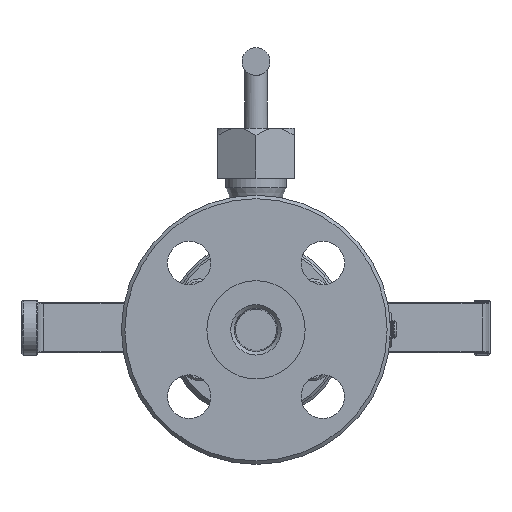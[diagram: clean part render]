
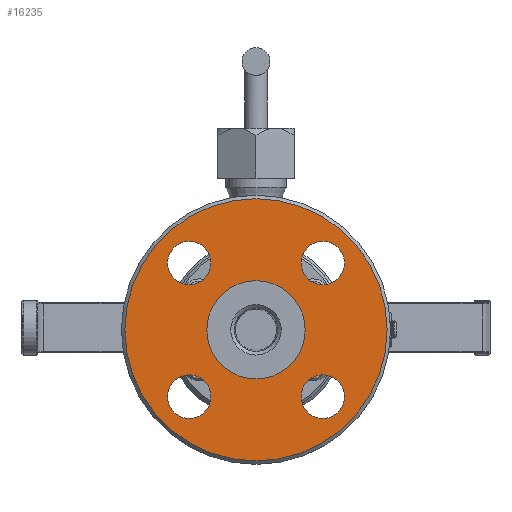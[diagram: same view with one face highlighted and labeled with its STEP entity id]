
A CAD part, left-side view. The second image highlights one B-rep face of the part: STEP entity #16235.
In plain terms, the highlighted planar face has unit normal (-1, 0, 0).
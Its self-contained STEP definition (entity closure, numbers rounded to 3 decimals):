
#3401=FACE_BOUND('',#4467,.T.);
#3402=FACE_BOUND('',#4468,.T.);
#3403=FACE_BOUND('',#4469,.T.);
#3404=FACE_BOUND('',#4470,.T.);
#3405=FACE_BOUND('',#4471,.T.);
#3518=FACE_OUTER_BOUND('',#4466,.T.);
#4466=EDGE_LOOP('',(#10814,#10815));
#4467=EDGE_LOOP('',(#10816));
#4468=EDGE_LOOP('',(#10817));
#4469=EDGE_LOOP('',(#10818));
#4470=EDGE_LOOP('',(#10819));
#4471=EDGE_LOOP('',(#10820,#10821));
#5516=CIRCLE('',#17251,9.5);
#5518=CIRCLE('',#17254,9.5);
#5520=CIRCLE('',#17257,9.5);
#5522=CIRCLE('',#17260,9.5);
#5548=CIRCLE('',#17297,57.25);
#5549=CIRCLE('',#17298,57.25);
#5550=CIRCLE('',#17300,21.45);
#5551=CIRCLE('',#17301,21.45);
#6435=VERTEX_POINT('',#23960);
#6437=VERTEX_POINT('',#23966);
#6439=VERTEX_POINT('',#23972);
#6441=VERTEX_POINT('',#23978);
#6464=VERTEX_POINT('',#24045);
#6465=VERTEX_POINT('',#24046);
#6466=VERTEX_POINT('',#24051);
#6467=VERTEX_POINT('',#24052);
#8138=EDGE_CURVE('',#6435,#6435,#5516,.T.);
#8141=EDGE_CURVE('',#6437,#6437,#5518,.T.);
#8144=EDGE_CURVE('',#6439,#6439,#5520,.T.);
#8147=EDGE_CURVE('',#6441,#6441,#5522,.T.);
#8179=EDGE_CURVE('',#6464,#6465,#5548,.T.);
#8181=EDGE_CURVE('',#6465,#6464,#5549,.T.);
#8182=EDGE_CURVE('',#6466,#6467,#5550,.T.);
#8183=EDGE_CURVE('',#6467,#6466,#5551,.T.);
#10814=ORIENTED_EDGE('',*,*,#8179,.F.);
#10815=ORIENTED_EDGE('',*,*,#8181,.F.);
#10816=ORIENTED_EDGE('',*,*,#8138,.F.);
#10817=ORIENTED_EDGE('',*,*,#8141,.F.);
#10818=ORIENTED_EDGE('',*,*,#8144,.F.);
#10819=ORIENTED_EDGE('',*,*,#8147,.F.);
#10820=ORIENTED_EDGE('',*,*,#8182,.T.);
#10821=ORIENTED_EDGE('',*,*,#8183,.T.);
#15853=PLANE('',#17299);
#16235=ADVANCED_FACE('',(#3518,#3401,#3402,#3403,#3404,#3405),#15853,.F.);
#17251=AXIS2_PLACEMENT_3D('',#23962,#19142,#19143);
#17254=AXIS2_PLACEMENT_3D('',#23968,#19149,#19150);
#17257=AXIS2_PLACEMENT_3D('',#23974,#19156,#19157);
#17260=AXIS2_PLACEMENT_3D('',#23980,#19163,#19164);
#17297=AXIS2_PLACEMENT_3D('',#24047,#19243,#19244);
#17298=AXIS2_PLACEMENT_3D('',#24049,#19246,#19247);
#17299=AXIS2_PLACEMENT_3D('',#24050,#19248,#19249);
#17300=AXIS2_PLACEMENT_3D('',#24053,#19250,#19251);
#17301=AXIS2_PLACEMENT_3D('',#24054,#19252,#19253);
#19142=DIRECTION('center_axis',(-1.,0.,0.));
#19143=DIRECTION('ref_axis',(0.,-1.,0.));
#19149=DIRECTION('center_axis',(-1.,0.,0.));
#19150=DIRECTION('ref_axis',(0.,-1.,0.));
#19156=DIRECTION('center_axis',(-1.,0.,0.));
#19157=DIRECTION('ref_axis',(0.,-1.,0.));
#19163=DIRECTION('center_axis',(-1.,0.,0.));
#19164=DIRECTION('ref_axis',(0.,-1.,0.));
#19243=DIRECTION('center_axis',(1.,0.,0.));
#19244=DIRECTION('ref_axis',(0.,0.,1.));
#19246=DIRECTION('center_axis',(1.,0.,0.));
#19247=DIRECTION('ref_axis',(0.,0.,1.));
#19248=DIRECTION('center_axis',(1.,0.,0.));
#19249=DIRECTION('ref_axis',(0.,0.,1.));
#19250=DIRECTION('center_axis',(1.,0.,0.));
#19251=DIRECTION('ref_axis',(0.,0.,1.));
#19252=DIRECTION('center_axis',(1.,0.,0.));
#19253=DIRECTION('ref_axis',(0.,0.,1.));
#23960=CARTESIAN_POINT('',(2322.967,1145.981,29.168));
#23962=CARTESIAN_POINT('Origin',(2322.967,1136.481,29.168));
#23966=CARTESIAN_POINT('',(2322.967,1087.644,-29.168));
#23968=CARTESIAN_POINT('Origin',(2322.967,1078.144,-29.168));
#23972=CARTESIAN_POINT('',(2322.967,1145.981,-29.168));
#23974=CARTESIAN_POINT('Origin',(2322.967,1136.481,-29.168));
#23978=CARTESIAN_POINT('',(2322.967,1087.644,29.168));
#23980=CARTESIAN_POINT('Origin',(2322.967,1078.144,29.168));
#24045=CARTESIAN_POINT('',(2322.967,1050.062,0.));
#24046=CARTESIAN_POINT('',(2322.967,1164.562,0.));
#24047=CARTESIAN_POINT('Origin',(2322.967,1107.312,0.));
#24049=CARTESIAN_POINT('Origin',(2322.967,1107.312,0.));
#24050=CARTESIAN_POINT('Origin',(2322.967,1085.862,0.));
#24051=CARTESIAN_POINT('',(2322.967,1085.862,0.));
#24052=CARTESIAN_POINT('',(2322.967,1128.762,0.));
#24053=CARTESIAN_POINT('Origin',(2322.967,1107.312,0.));
#24054=CARTESIAN_POINT('Origin',(2322.967,1107.312,0.));
